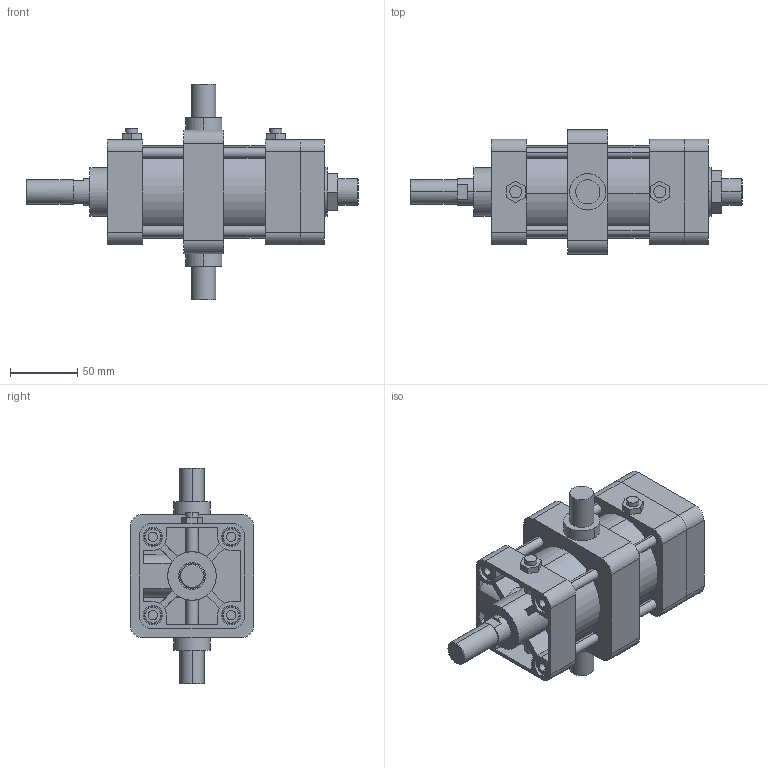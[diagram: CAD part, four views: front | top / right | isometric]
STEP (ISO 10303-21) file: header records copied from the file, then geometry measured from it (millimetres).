
FILE_DESCRIPTION (( 'STEP AP203' ), '1' );
FILE_NAME ('KGA2-63#-50-T.STEP', '2016-04-14T07:42:57', ( '' ), ( '' ), 'SwSTEP 2.0', 'SolidWorks 2014', '' );
FILE_SCHEMA (( 'CONFIG_CONTROL_DESIGN' ));
Length unit declared in the file: millimetre
Products named in the file (8): KGLH2-63-50; KGA2-63#-50-T; KG2-63-After; K-63-T; KGA2-63-After
Assembly tree (17 placements, depth 2):
  KGA2-63#-50-T
    KG2-63-After
    KGLH2-63-50
    (unnamed)
    (unnamed)  x4
    (unnamed)  x8
    K-63-T
    KGA2-63-After
Bounding box: 246.5 x 92 x 160 mm (x, y, z)
Volume: 873823 mm3; surface area: 173542.5 mm2
Topology: 17 solids, 17 shells, 386 faces, 918 edges, 588 vertices
Faces by surface type: plane 162, cylinder 158, torus 38, cone 28
Entity records: 10251 total; most frequent: CARTESIAN_POINT 1861, DIRECTION 1606, ORIENTED_EDGE 1456, EDGE_CURVE 728, AXIS2_PLACEMENT_3D 606, VERTEX_POINT 478, VECTOR 394, LINE 394
